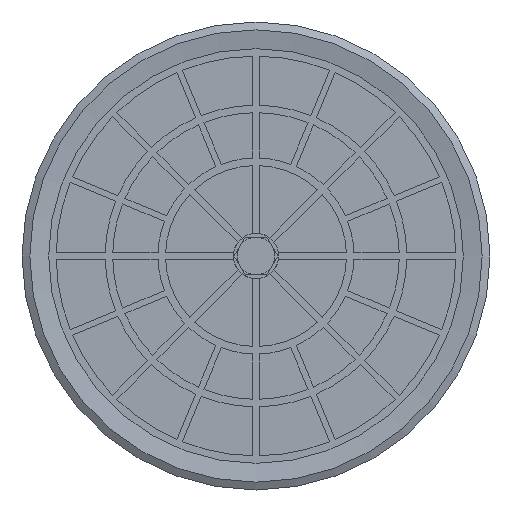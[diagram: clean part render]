
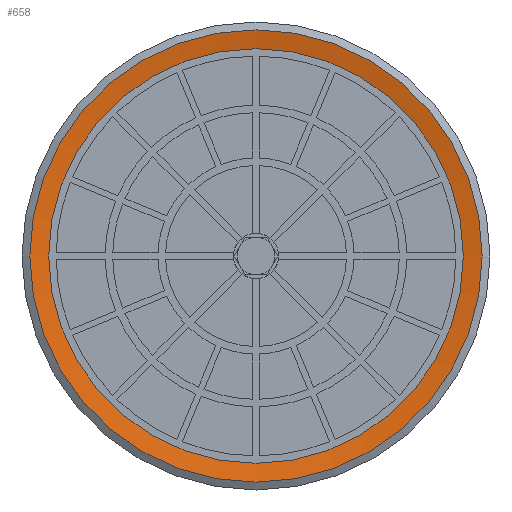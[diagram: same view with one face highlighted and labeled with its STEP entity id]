
A CAD part, front view. The second image highlights one B-rep face of the part: STEP entity #658.
In plain terms, the highlighted conical face has half-angle 80 degrees and reference radius 15 mm.
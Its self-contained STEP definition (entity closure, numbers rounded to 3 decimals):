
#658=ADVANCED_FACE('',(#1294,#1295),#1296,.F.);
#1294=FACE_BOUND('',#2072,.T.);
#1295=FACE_OUTER_BOUND('',#2073,.T.);
#1296=CONICAL_SURFACE('',#2074,15.0,1.396);
#2072=EDGE_LOOP('',(#3920));
#2073=EDGE_LOOP('',(#3921));
#2074=AXIS2_PLACEMENT_3D('',#3922,#3923,#3924);
#3920=ORIENTED_EDGE('',*,*,#5485,.T.);
#3921=ORIENTED_EDGE('',*,*,#5285,.F.);
#3922=CARTESIAN_POINT('',(0.0,0.,0.));
#3923=DIRECTION('',(0.0,0.,-1.0));
#3924=DIRECTION('',(0.0,1.0,0.));
#5285=EDGE_CURVE('',#6346,#6346,#6347,.T.);
#5485=EDGE_CURVE('',#6694,#6694,#6695,.T.);
#6346=VERTEX_POINT('',#8230);
#6347=CIRCLE('',#8231,15.0);
#6694=VERTEX_POINT('',#8693);
#6695=CIRCLE('',#8694,13.75);
#8230=CARTESIAN_POINT('',(0.0,-15.0,0.));
#8231=AXIS2_PLACEMENT_3D('',#9605,#9606,#9607);
#8693=CARTESIAN_POINT('',(0.0,-13.75,0.22));
#8694=AXIS2_PLACEMENT_3D('',#9975,#9976,#9977);
#9605=CARTESIAN_POINT('',(0.0,0.,0.));
#9606=DIRECTION('',(0.0,0.,1.0));
#9607=DIRECTION('',(0.0,-1.0,0.));
#9975=CARTESIAN_POINT('',(0.0,0.,0.22));
#9976=DIRECTION('',(0.0,0.,1.0));
#9977=DIRECTION('',(0.0,-1.0,0.));
